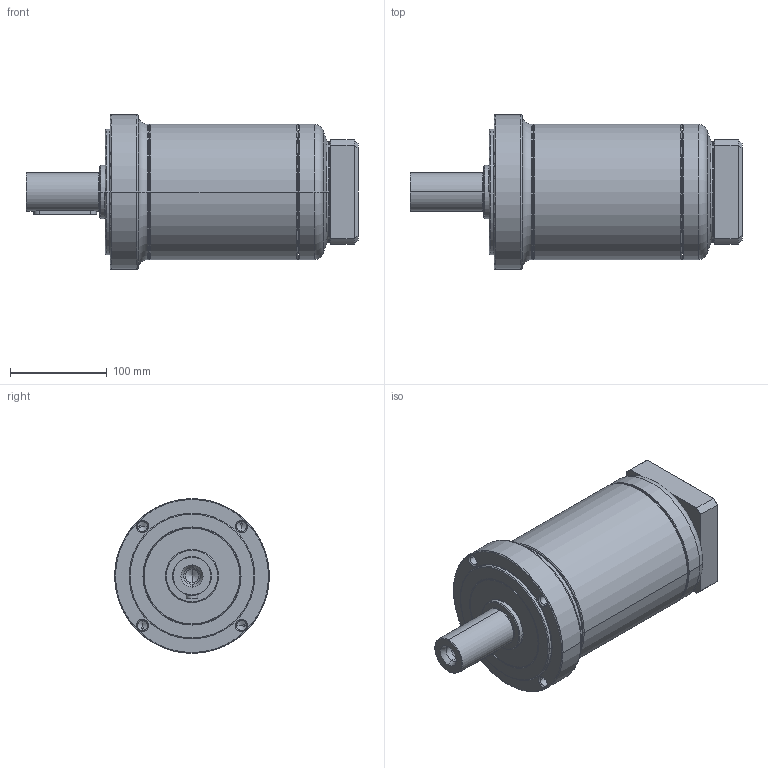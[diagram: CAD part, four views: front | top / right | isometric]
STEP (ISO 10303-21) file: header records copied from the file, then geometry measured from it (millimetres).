
FILE_DESCRIPTION((''),'2;1');
FILE_NAME('PG2-160_3ST_28-P0411600101_ASM','2016-04-19T',('d01943'),(''),'PRO/ENGINEER BY PARAMETRIC TECHNOLOGY CORPORATION, 2008410','PRO/ENGINEER BY PARAMETRIC TECHNOLOGY CORPORATION, 2008410','');
FILE_SCHEMA(('CONFIG_CONTROL_DESIGN'));
Length unit declared in the file: millimetre
Products named in the file (9): P1325510001; P0273500001; P1324500201; P0350501103; P0411600101; P0503600008; P0941502001; P1702500001; PG2-160_3ST_28-P0411600101_ASM
Assembly tree (8 placements, depth 2):
  PG2-160_3ST_28-P0411600101_ASM
    P1325510001
    P0273500001
    P1324500201
    P0350501103
    P0411600101
    P0503600008
    P0941502001
    P1702500001
Bounding box: 343.5 x 160 x 160 mm (x, y, z)
Volume: 2546454.3 mm3; surface area: 379206 mm2
Topology: 8 solids, 9 shells, 478 faces, 1042 edges, 600 vertices
Faces by surface type: cylinder 143, cone 140, torus 100, plane 79, bspline 16
Entity records: 17574 total; most frequent: CARTESIAN_POINT 6831, DIRECTION 2462, ORIENTED_EDGE 2028, AXIS2_PLACEMENT_3D 1058, EDGE_CURVE 1014, VERTEX_POINT 600, CIRCLE 579, EDGE_LOOP 542
